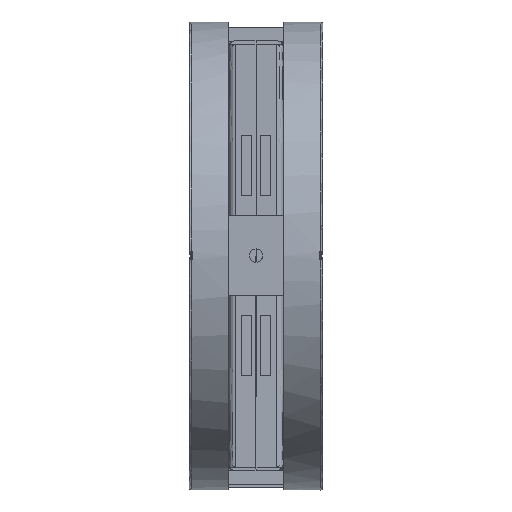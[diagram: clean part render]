
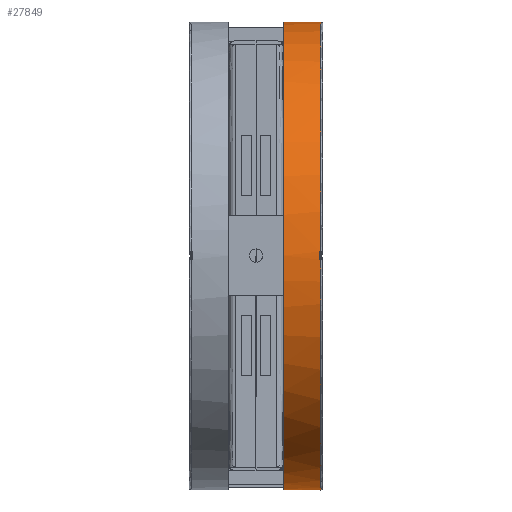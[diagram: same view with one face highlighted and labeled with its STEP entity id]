
A CAD part, top view. The second image highlights one B-rep face of the part: STEP entity #27849.
In plain terms, the highlighted free-form (B-spline) face has degree [2, 1] with [7, 2] control points.
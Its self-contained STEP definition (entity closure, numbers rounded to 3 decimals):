
#20822=CARTESIAN_POINT('V217',(-174.974,
   27.8,-3.));
#20823=VERTEX_POINT('V217',#20822);
#20835=CARTESIAN_POINT('V218',(174.974,
   27.8,-3.));
#20836=VERTEX_POINT('V218',#20835);
#20837=CARTESIAN_POINT('E352',(-174.974,
   27.8,-3.));
#20838=CARTESIAN_POINT('E352',(-172.025,
   27.8,-175.));
#20839=CARTESIAN_POINT('E352',(0.,27.8,
   -175.));
#20840=CARTESIAN_POINT('E352',(172.025,
   27.8,-175.));
#20841=CARTESIAN_POINT('E352',(174.974,
   27.8,-3.));
#20849=(BOUNDED_CURVE()B_SPLINE_CURVE(2,(#20837,#20838,#20839,
   #20840,#20841),.CIRCULAR_ARC.,.F.,.U.)B_SPLINE_CURVE_WITH_KNOTS(
   (3,2,3),(2.0,116.404,230.809),
   .UNSPECIFIED.)CURVE()GEOMETRIC_REPRESENTATION_ITEM()
   RATIONAL_B_SPLINE_CURVE((1.0,0.713,1.0,
   0.713,1.0))REPRESENTATION_ITEM('E352'));
#20850=EDGE_CURVE('E352',#20823,#20836,#20849,.T.);
#20914=CARTESIAN_POINT('V213',(174.974,
   27.8,3.));
#20915=VERTEX_POINT('V213',#20914);
#20927=CARTESIAN_POINT('V214',(-174.974,
   27.8,3.));
#20928=VERTEX_POINT('V214',#20927);
#20929=CARTESIAN_POINT('E342',(174.974,
   27.8,3.));
#20930=CARTESIAN_POINT('E342',(172.025,
   27.8,175.));
#20931=CARTESIAN_POINT('E342',(0.,27.8,
   175.));
#20932=CARTESIAN_POINT('E342',(-172.025,
   27.8,175.));
#20933=CARTESIAN_POINT('E342',(-174.974,
   27.8,3.));
#20941=(BOUNDED_CURVE()B_SPLINE_CURVE(2,(#20929,#20930,#20931,
   #20932,#20933),.CIRCULAR_ARC.,.F.,.U.)B_SPLINE_CURVE_WITH_KNOTS(
   (3,2,3),(2.0,116.404,230.809),
   .UNSPECIFIED.)CURVE()GEOMETRIC_REPRESENTATION_ITEM()
   RATIONAL_B_SPLINE_CURVE((1.0,0.713,1.0,
   0.713,1.0))REPRESENTATION_ITEM('E342'));
#20942=EDGE_CURVE('E342',#20915,#20928,#20941,.T.);
#24446=CARTESIAN_POINT('V209',(-175.0,0.,0.0));
#24447=VERTEX_POINT('V209',#24446);
#24448=CARTESIAN_POINT('E331',(-175.0,0.,0.0));
#24449=CARTESIAN_POINT('E331',(-175.0,0.,
   -303.109));
#24450=CARTESIAN_POINT('E331',(87.5,0.,
   -151.554));
#24451=CARTESIAN_POINT('E331',(350.,0.,
   0.));
#24452=CARTESIAN_POINT('E331',(87.5,0.,
   151.554));
#24453=CARTESIAN_POINT('E331',(-175.,0.,
   303.109));
#24454=CARTESIAN_POINT('E331',(-175.0,0.,0.0));
#24462=(BOUNDED_CURVE()B_SPLINE_CURVE(2,(#24448,#24449,#24450,
   #24451,#24452,#24453,#24454),.CIRCULAR_ARC.,.T.,.U.)
   B_SPLINE_CURVE_WITH_KNOTS((3,2,2,3),(0.0,0.333,
   0.667,1.0),.UNSPECIFIED.)CURVE()
   GEOMETRIC_REPRESENTATION_ITEM()RATIONAL_B_SPLINE_CURVE((1.0,
   0.5,1.0,0.5,1.0,0.5,1.0)
   )REPRESENTATION_ITEM('E331'));
#24463=EDGE_CURVE('E331',#24447,#24447,#24462,.T.);
#27567=CARTESIAN_POINT('V207',(-174.974,
   26.8,-3.));
#27568=VERTEX_POINT('V207',#27567);
#27574=CARTESIAN_POINT('E327',(-174.974,
   26.8,-3.));
#27575=CARTESIAN_POINT('E327',(-174.974,
   27.8,-3.));
#27576=B_SPLINE_CURVE_WITH_KNOTS('E327',1,(#27574,#27575),
   .POLYLINE_FORM.,.F.,.U.,(2,2),(0.0,0.4),
   .UNSPECIFIED.);
#27577=EDGE_CURVE('E327',#27568,#20823,#27576,.T.);
#27587=CARTESIAN_POINT('V204',(-174.974,
   26.8,3.));
#27588=VERTEX_POINT('V204',#27587);
#27589=CARTESIAN_POINT('V208',(-175.0,26.8,0.0));
#27590=VERTEX_POINT('V208',#27589);
#27591=CARTESIAN_POINT('E328',(-174.974,
   26.8,3.));
#27592=CARTESIAN_POINT('E328',(-175.,
   26.8,1.5));
#27593=CARTESIAN_POINT('E328',(-175.0,26.8,
   0.));
#27601=(BOUNDED_CURVE()B_SPLINE_CURVE(2,(#27591,#27592,#27593),
   .CIRCULAR_ARC.,.F.,.U.)B_SPLINE_CURVE_WITH_KNOTS((3,3),(0.0,
   0.5),.UNSPECIFIED.)CURVE()
   GEOMETRIC_REPRESENTATION_ITEM()RATIONAL_B_SPLINE_CURVE((1.0,
   1.,1.))REPRESENTATION_ITEM('E328')
   );
#27602=EDGE_CURVE('E328',#27588,#27590,#27601,.T.);
#27604=CARTESIAN_POINT('E329',(-175.0,26.8,
   0.));
#27605=CARTESIAN_POINT('E329',(-175.,
   26.8,-1.5));
#27606=CARTESIAN_POINT('E329',(-174.974,
   26.8,-3.));
#27614=(BOUNDED_CURVE()B_SPLINE_CURVE(2,(#27604,#27605,#27606),
   .CIRCULAR_ARC.,.F.,.U.)B_SPLINE_CURVE_WITH_KNOTS((3,3),(
   0.5,1.0),.UNSPECIFIED.)CURVE()
   GEOMETRIC_REPRESENTATION_ITEM()RATIONAL_B_SPLINE_CURVE((
   1.,1.,1.0))REPRESENTATION_ITEM(
   'E329'));
#27615=EDGE_CURVE('E329',#27590,#27568,#27614,.T.);
#27649=CARTESIAN_POINT('E321',(-174.974,
   27.8,3.));
#27650=CARTESIAN_POINT('E321',(-174.974,
   26.8,3.));
#27651=B_SPLINE_CURVE_WITH_KNOTS('E321',1,(#27649,#27650),
   .POLYLINE_FORM.,.F.,.U.,(2,2),(0.6,1.0),
   .UNSPECIFIED.);
#27652=EDGE_CURVE('E321',#20928,#27588,#27651,.T.);
#27776=CARTESIAN_POINT('V203',(174.974,
   26.8,3.));
#27777=VERTEX_POINT('V203',#27776);
#27783=CARTESIAN_POINT('E319',(174.974,
   26.8,3.));
#27784=CARTESIAN_POINT('E319',(174.974,
   27.8,3.));
#27785=B_SPLINE_CURVE_WITH_KNOTS('E319',1,(#27783,#27784),
   .POLYLINE_FORM.,.F.,.U.,(2,2),(0.0,0.4),
   .UNSPECIFIED.);
#27786=EDGE_CURVE('E319',#27777,#20915,#27785,.T.);
#27791=CARTESIAN_POINT('F158',(-175.0,29.3,0.0));
#27792=CARTESIAN_POINT('F158',(-175.0,29.3,
   -303.109));
#27793=CARTESIAN_POINT('F158',(87.5,29.3,
   -151.554));
#27794=CARTESIAN_POINT('F158',(350.,
   29.3,0.));
#27795=CARTESIAN_POINT('F158',(87.5,29.3,
   151.554));
#27796=CARTESIAN_POINT('F158',(-175.,
   29.3,303.109));
#27797=CARTESIAN_POINT('F158',(-175.0,29.3,0.0));
#27798=CARTESIAN_POINT('F158',(-175.0,0.,0.0));
#27799=CARTESIAN_POINT('F158',(-175.0,0.,
   -303.109));
#27800=CARTESIAN_POINT('F158',(87.5,0.,
   -151.554));
#27801=CARTESIAN_POINT('F158',(350.,0.,
   0.));
#27802=CARTESIAN_POINT('F158',(87.5,0.,
   151.554));
#27803=CARTESIAN_POINT('F158',(-175.,0.,
   303.109));
#27804=CARTESIAN_POINT('F158',(-175.0,0.,0.0));
#27812=(BOUNDED_SURFACE()B_SPLINE_SURFACE(2,1,((#27791,#27798),(
   #27792,#27799),(#27793,#27800),(#27794,#27801),(#27795,
   #27802),(#27796,#27803),(#27797,#27804)),.CYLINDRICAL_SURF.,
   .T.,.F.,.U.)B_SPLINE_SURFACE_WITH_KNOTS((3,2,2,3),(2,2),(0.0,
   20.69,41.38,62.07),(0.0,
   1.0),.UNSPECIFIED.)GEOMETRIC_REPRESENTATION_ITEM()
   RATIONAL_B_SPLINE_SURFACE(((1.0,1.0),(0.5,
   0.5),(1.0,1.0),(0.5,
   0.5),(1.0,1.0),(0.5,
   0.5),(1.0,1.0)))REPRESENTATION_ITEM('F158')
   SURFACE());
#27813=ORIENTED_EDGE('E352',*,*,#20850,.F.);
#27814=ORIENTED_EDGE('F156',*,*,#27577,.F.);
#27815=ORIENTED_EDGE('E329',*,*,#27615,.F.);
#27816=CARTESIAN_POINT('E330',(-175.0,0.,0.0));
#27817=CARTESIAN_POINT('E330',(-175.0,26.8,0.0));
#27818=B_SPLINE_CURVE_WITH_KNOTS('E330',1,(#27816,#27817),
   .POLYLINE_FORM.,.F.,.U.,(2,2),(0.0,0.915),
   .UNSPECIFIED.);
#27819=EDGE_CURVE('E330',#24447,#27590,#27818,.T.);
#27820=ORIENTED_EDGE('E330',*,*,#27819,.F.);
#27821=ORIENTED_EDGE('F160',*,*,#24463,.T.);
#27822=ORIENTED_EDGE('E330',*,*,#27819,.T.);
#27823=ORIENTED_EDGE('E328',*,*,#27602,.F.);
#27824=ORIENTED_EDGE('E321',*,*,#27652,.F.);
#27825=ORIENTED_EDGE('E342',*,*,#20942,.F.);
#27826=ORIENTED_EDGE('F152',*,*,#27786,.F.);
#27827=CARTESIAN_POINT('V200',(174.974,
   26.8,-3.));
#27828=VERTEX_POINT('V200',#27827);
#27829=CARTESIAN_POINT('E320',(174.974,
   26.8,-3.));
#27830=CARTESIAN_POINT('E320',(175.026,
   26.8,0.));
#27831=CARTESIAN_POINT('E320',(174.974,
   26.8,3.));
#27839=(BOUNDED_CURVE()B_SPLINE_CURVE(2,(#27829,#27830,#27831),
   .CIRCULAR_ARC.,.F.,.U.)CURVE()GEOMETRIC_REPRESENTATION_ITEM()
   QUASI_UNIFORM_CURVE()RATIONAL_B_SPLINE_CURVE((1.0,
   1.,1.0))REPRESENTATION_ITEM('E320'));
#27840=EDGE_CURVE('E320',#27828,#27777,#27839,.T.);
#27841=ORIENTED_EDGE('E320',*,*,#27840,.F.);
#27842=CARTESIAN_POINT('E313',(174.974,
   27.8,-3.));
#27843=CARTESIAN_POINT('E313',(174.974,
   26.8,-3.));
#27844=B_SPLINE_CURVE_WITH_KNOTS('E313',1,(#27842,#27843),
   .POLYLINE_FORM.,.F.,.U.,(2,2),(0.6,1.0),
   .UNSPECIFIED.);
#27845=EDGE_CURVE('E313',#20836,#27828,#27844,.T.);
#27846=ORIENTED_EDGE('E313',*,*,#27845,.F.);
#27847=EDGE_LOOP('F158',(#27813,#27814,#27815,#27820,#27821,#27822,
   #27823,#27824,#27825,#27826,#27841,#27846));
#27848=FACE_OUTER_BOUND('F158',#27847,.F.);
#27849=ADVANCED_FACE('F158',(#27848),#27812,.T.);
